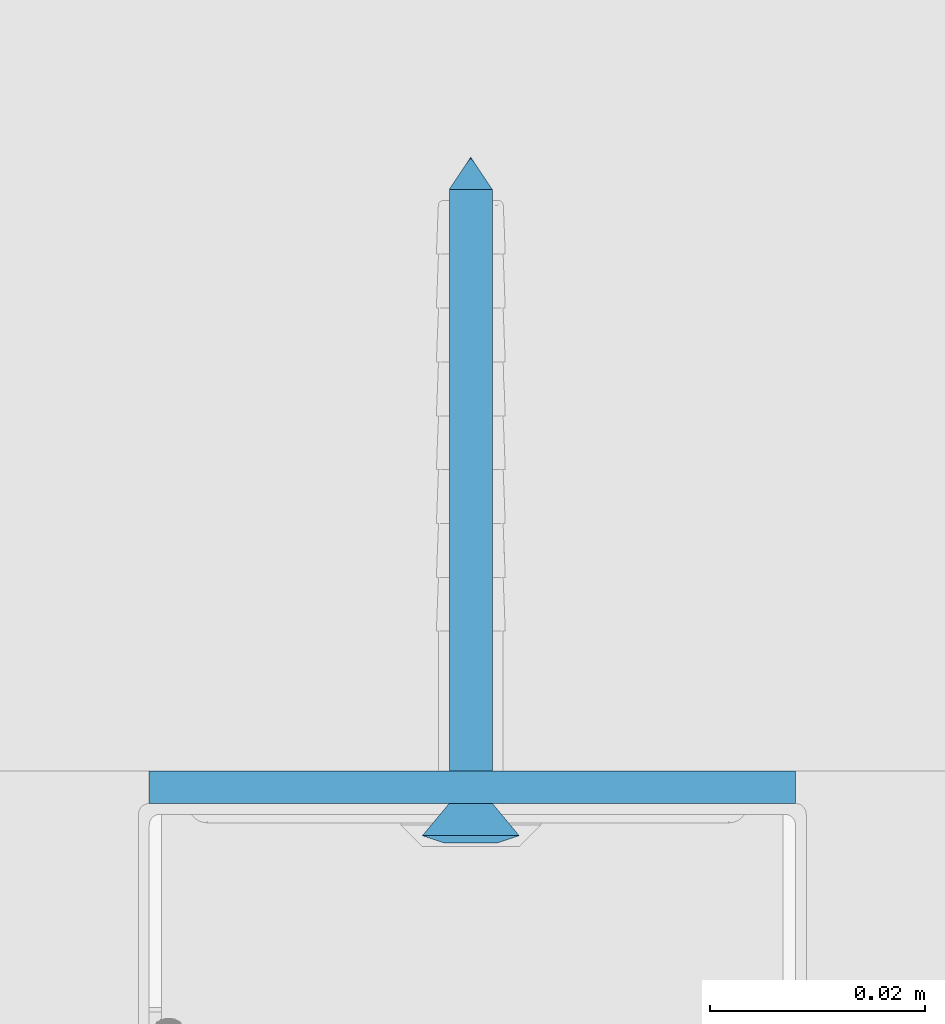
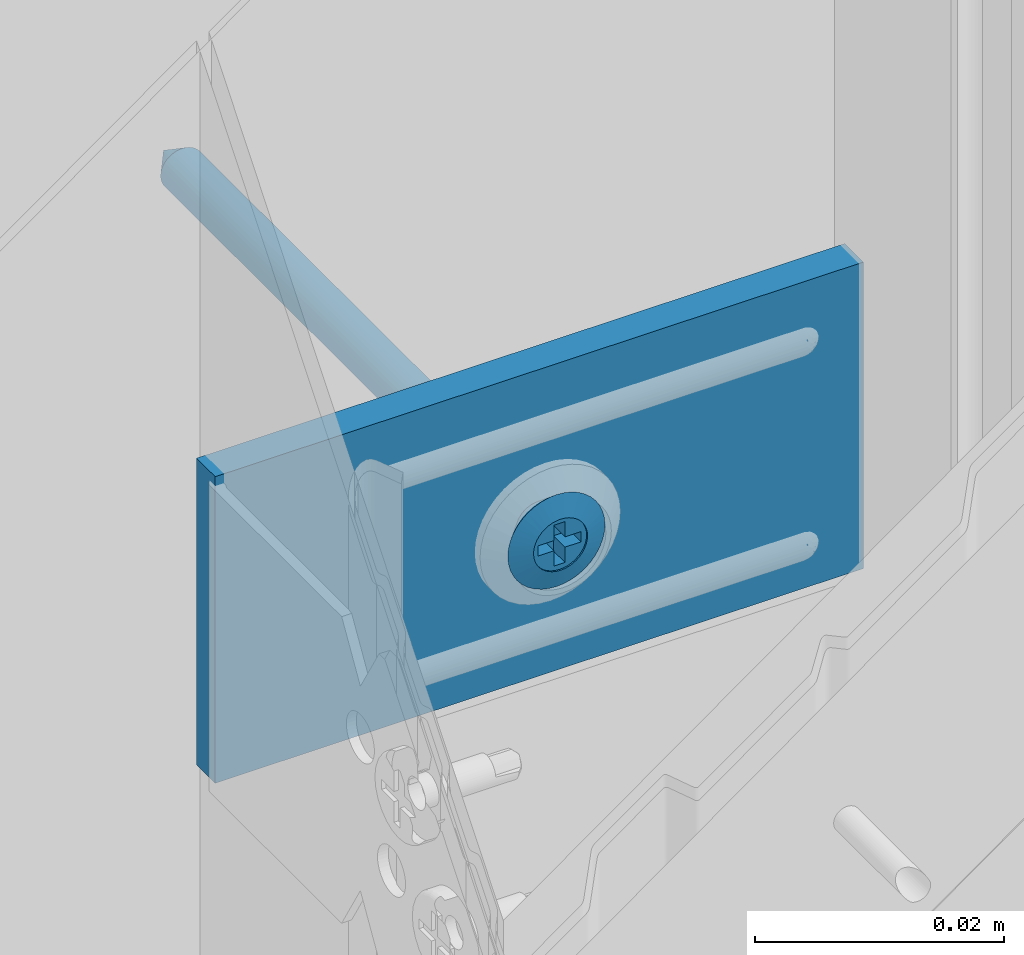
# One storey, part 51 of 62: 2 walls.
"""IFC2X3 building model written with IfcOpenShell, lengths in millimetres."""

from ifc_helpers import new_model, entity, si_unit, converted_unit, direction, frame, origin, origin_with_axes, place, context, project, spatial, faceted_brep, element, save


model = new_model("IFC2X3")

# Units and contexts
model_context = context("Model", 3, precision=1e-05, world=origin(), true_north=direction((0.0, 1.0, 0.0)))
ifc_project = project(units=[si_unit("LENGTHUNIT", "METRE", prefix="MILLI"), si_unit("AREAUNIT", "SQUARE_METRE"), si_unit("VOLUMEUNIT", "CUBIC_METRE"), converted_unit("PLANEANGLEUNIT", "DEGREE", entity("IfcPlaneAngleMeasure", 0.01745), si_unit("PLANEANGLEUNIT", "RADIAN"), dimensions=[0, 0, 0, 0, 0, 0, 0]), si_unit("SOLIDANGLEUNIT", "STERADIAN"), si_unit("MASSUNIT", "GRAM"), si_unit("TIMEUNIT", "SECOND"), si_unit("THERMODYNAMICTEMPERATUREUNIT", "DEGREE_CELSIUS"), si_unit("LUMINOUSINTENSITYUNIT", "LUMEN")], contexts=[model_context])

# Site, building, storey
site_placement = place(None, origin_with_axes())
site = spatial("IfcSite", under=ifc_project, at=site_placement, Name="Default Site", CompositionType="ELEMENT")
building_placement = place(site_placement, origin_with_axes())
building = spatial("IfcBuilding", under=site, at=building_placement, Name="Default Building", CompositionType="ELEMENT")
storey_placement = place(building_placement, origin_with_axes())
storey = spatial("IfcBuildingStorey", under=building, at=storey_placement, Name="Default Building Storey", CompositionType="ELEMENT", Elevation=0.0)

# Walls
wall_1_placement = place(storey_placement, frame((6356.176283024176, 2016.328611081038, -145.8634027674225), z_axis=(-6.858158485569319e-13, -1.0, -7.642380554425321e-14), x_axis=(-1.647602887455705e-11, 7.642380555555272e-14, -1.0)))
element("IfcWall", 1, at=wall_1_placement, inside=storey, Name="Kołek rozporowy min. fi 6", context=model_context, shape_type="Brep", body=[
    faceted_brep([(-1438.31414949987, -3453.283223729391, -0.4642567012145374), (-1435.814149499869, -3453.283223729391, -3.464256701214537), (-1435.78952618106, -3452.97035479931, -3.464256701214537), (-1438.258747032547, -3452.57926863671, -0.4642567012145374), (-1435.71626253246, -3452.665189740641, -3.464256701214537), (-1438.093903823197, -3451.892647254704, -0.4642567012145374), (-1435.596162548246, -3452.375242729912, -3.464256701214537), (-1437.823678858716, -3451.240266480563, -0.4642567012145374), (-1435.432183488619, -3452.107653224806, -3.464256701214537), (-1437.454725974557, -3450.638190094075, -0.4642567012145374), (-1435.228363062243, -3451.869010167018, -3.464256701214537), (-1436.996130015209, -3450.101243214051, -0.4642567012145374), (-1434.989720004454, -3451.665189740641, -3.464256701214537), (-1436.459183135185, -3449.642647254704, -0.4642567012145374), (-1434.722130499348, -3451.501210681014, -3.464256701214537), (-1435.857106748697, -3449.273694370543, -0.4642567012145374), (-1434.432183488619, -3451.381110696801, -3.464256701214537), (-1435.204725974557, -3449.003469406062, -0.4642567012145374), (-1434.12701842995, -3451.307847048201, -3.464256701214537), (-1434.51810459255, -3448.838626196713, -0.4642567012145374), (-1433.814149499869, -3451.283223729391, -3.464256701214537), (-1433.814149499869, -3448.783223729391, -0.4642567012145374), (-1433.501280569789, -3451.307847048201, -3.464256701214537), (-1433.110194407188, -3448.838626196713, -0.4642567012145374), (-1433.19611551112, -3451.381110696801, -3.464256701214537), (-1432.423573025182, -3449.003469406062, -0.4642567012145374), (-1432.906168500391, -3451.501210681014, -3.464256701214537), (-1431.771192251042, -3449.273694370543, -0.4642567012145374), (-1432.638578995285, -3451.665189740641, -3.464256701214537), (-1431.169115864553, -3449.642647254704, -0.4642567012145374), (-1432.399935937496, -3451.869010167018, -3.464256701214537), (-1430.63216898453, -3450.101243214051, -0.4642567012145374), (-1432.196115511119, -3452.107653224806, -3.464256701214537), (-1430.173573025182, -3450.638190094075, -0.4642567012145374), (-1432.032136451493, -3452.375242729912, -3.464256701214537), (-1429.804620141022, -3451.240266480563, -0.4642567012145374), (-1431.912036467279, -3452.665189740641, -3.464256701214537), (-1429.534395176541, -3451.892647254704, -0.4642567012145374), (-1431.838772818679, -3453.596092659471, -3.464256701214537), (-1429.369551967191, -3453.987178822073, -0.4642567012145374), (-1429.314149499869, -3453.283223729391, -0.4642567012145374), (-1431.81414949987, -3453.283223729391, -3.464256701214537), (-1429.369551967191, -3452.57926863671, -0.4642567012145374), (-1431.838772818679, -3452.97035479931, -3.464256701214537), (-1431.912036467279, -3453.901257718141, -3.464256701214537), (-1429.534395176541, -3454.673800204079, -0.4642567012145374), (-1432.032136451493, -3454.19120472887, -3.464256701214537), (-1429.804620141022, -3455.326180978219, -0.4642567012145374), (-1432.196115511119, -3454.458794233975, -3.464256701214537), (-1430.173573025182, -3455.928257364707, -0.4642567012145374), (-1432.399935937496, -3454.697437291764, -3.464256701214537), (-1430.63216898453, -3456.465204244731, -0.4642567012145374), (-1432.638578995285, -3454.901257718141, -3.464256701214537), (-1431.169115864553, -3456.923800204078, -0.4642567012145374), (-1432.906168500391, -3455.065236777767, -3.464256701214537), (-1431.771192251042, -3457.292753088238, -0.4642567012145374), (-1433.19611551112, -3455.185336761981, -3.464256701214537), (-1432.423573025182, -3457.562978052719, -0.4642567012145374), (-1433.501280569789, -3455.258600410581, -3.464256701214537), (-1433.110194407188, -3457.727821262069, -0.4642567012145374), (-1433.814149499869, -3455.283223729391, -3.464256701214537), (-1433.814149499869, -3457.783223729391, -0.4642567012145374), (-1434.34306778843, -3457.752031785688, -0.4642567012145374), (-1434.12701842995, -3455.258600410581, -3.464256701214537), (-1434.432183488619, -3455.185336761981, -3.464256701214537), (-1434.864653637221, -3457.658888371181, -0.4642567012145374), (-1435.371676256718, -3457.505084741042, -0.4642567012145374), (-1434.722130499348, -3455.065236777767, -3.464256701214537), (-1435.857106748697, -3457.292753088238, -0.4642567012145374), (-1434.989720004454, -3454.901257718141, -3.464256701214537), (-1435.228363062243, -3454.697437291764, -3.464256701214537), (-1436.314215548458, -3457.024836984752, -0.4642567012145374), (-1436.736665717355, -3456.705050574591, -0.4642567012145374), (-1437.11860079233, -3456.337827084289, -0.4642567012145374), (-1437.454725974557, -3455.928257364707, -0.4642567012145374), (-1435.432183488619, -3454.458794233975, -3.464256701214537), (-1435.596162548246, -3454.19120472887, -3.464256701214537), (-1437.823678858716, -3455.326180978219, -0.4642567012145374), (-1435.71626253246, -3453.901257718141, -3.464256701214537), (-1438.093903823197, -3454.673800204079, -0.4642567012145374), (-1435.78952618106, -3453.596092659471, -3.464256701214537), (-1438.258747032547, -3453.987178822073, -0.4642567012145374), (-1434.205235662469, -3455.752444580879, 0.2007375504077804), (-1433.814149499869, -3455.78322372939, 0.2007375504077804), (-1434.586691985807, -3455.660865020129, 0.2007375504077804), (-1434.949125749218, -3455.510740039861, 0.2007375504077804), (-1435.283612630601, -3455.305766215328, 0.2007375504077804), (-1435.581916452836, -3455.050990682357, 0.2007375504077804), (-1435.836691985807, -3454.752686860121, 0.2007375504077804), (-1436.04166581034, -3454.41819997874, 0.2007375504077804), (-1436.191790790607, -3454.055766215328, 0.2007375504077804), (-1436.283370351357, -3453.674309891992, 0.2007375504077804), (-1436.314149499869, -3453.283223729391, 0.2007375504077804), (-1436.283370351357, -3452.892137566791, 0.2007375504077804), (-1436.191790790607, -3452.510681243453, 0.2007375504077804), (-1436.04166581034, -3452.148247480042, 0.2007375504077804), (-1435.836691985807, -3451.81376059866, 0.200737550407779), (-1435.581916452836, -3451.515456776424, 0.2007375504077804), (-1435.283612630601, -3451.260681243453, 0.2007375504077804), (-1434.949125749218, -3451.05570741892, 0.2007375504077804), (-1434.586691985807, -3450.905582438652, 0.2007375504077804), (-1433.423063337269, -3450.814002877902, 0.2007375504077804), (-1433.814149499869, -3450.783223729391, 0.2007375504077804), (-1434.205235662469, -3450.814002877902, 0.2007375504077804), (-1433.041607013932, -3450.905582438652, 0.2007375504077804), (-1432.67917325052, -3451.05570741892, 0.2007375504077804), (-1432.344686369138, -3451.260681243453, 0.2007375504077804), (-1432.046382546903, -3451.515456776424, 0.2007375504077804), (-1431.791607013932, -3451.81376059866, 0.2007375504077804), (-1431.586633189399, -3452.148247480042, 0.2007375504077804), (-1431.436508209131, -3452.510681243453, 0.2007375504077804), (-1431.344928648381, -3452.892137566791, 0.2007375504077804), (-1431.314149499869, -3453.283223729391, 0.2007375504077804), (-1431.344928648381, -3453.674309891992, 0.2007375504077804), (-1431.436508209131, -3454.055766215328, 0.2007375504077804), (-1431.586633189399, -3454.41819997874, 0.2007375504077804), (-1431.791607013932, -3454.752686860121, 0.2007375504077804), (-1432.046382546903, -3455.050990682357, 0.2007375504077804), (-1432.344686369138, -3455.305766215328, 0.2007375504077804), (-1432.67917325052, -3455.510740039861, 0.2007375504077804), (-1433.041607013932, -3455.660865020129, 0.2007375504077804), (-1433.423063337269, -3455.752444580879, 0.2007375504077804), (-1433.814149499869, -3453.283223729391, -63.46425670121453), (-1435.789526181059, -3452.97035479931, -60.46425670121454), (-1435.814149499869, -3453.283223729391, -60.46425670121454), (-1435.716262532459, -3452.665189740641, -60.46425670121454), (-1435.596162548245, -3452.375242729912, -60.46425670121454), (-1435.432183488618, -3452.107653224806, -60.46425670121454), (-1435.228363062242, -3451.869010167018, -60.46425670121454), (-1434.989720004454, -3451.665189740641, -60.46425670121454), (-1434.722130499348, -3451.501210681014, -60.46425670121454), (-1434.432183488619, -3451.381110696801, -60.46425670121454), (-1434.127018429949, -3451.307847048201, -60.46425670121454), (-1433.814149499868, -3451.283223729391, -60.46425670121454), (-1433.501280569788, -3451.307847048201, -60.46425670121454), (-1433.196115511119, -3451.381110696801, -60.46425670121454), (-1432.90616850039, -3451.501210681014, -60.46425670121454), (-1432.638578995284, -3451.665189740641, -60.46425670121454), (-1432.399935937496, -3451.869010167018, -60.46425670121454), (-1432.196115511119, -3452.107653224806, -60.46425670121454), (-1432.032136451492, -3452.375242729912, -60.46425670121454), (-1431.912036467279, -3452.665189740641, -60.46425670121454), (-1431.838772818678, -3452.97035479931, -60.46425670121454), (-1431.814149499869, -3453.283223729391, -60.46425670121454), (-1431.838772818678, -3453.596092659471, -60.46425670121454), (-1431.912036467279, -3453.901257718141, -60.46425670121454), (-1432.032136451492, -3454.19120472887, -60.46425670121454), (-1432.196115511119, -3454.458794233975, -60.46425670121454), (-1432.399935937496, -3454.697437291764, -60.46425670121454), (-1432.638578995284, -3454.901257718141, -60.46425670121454), (-1432.90616850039, -3455.065236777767, -60.46425670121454), (-1433.196115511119, -3455.185336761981, -60.46425670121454), (-1433.501280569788, -3455.258600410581, -60.46425670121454), (-1433.814149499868, -3455.283223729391, -60.46425670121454), (-1434.127018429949, -3455.258600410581, -60.46425670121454), (-1434.432183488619, -3455.185336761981, -60.46425670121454), (-1434.722130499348, -3455.065236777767, -60.46425670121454), (-1434.989720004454, -3454.901257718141, -60.46425670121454), (-1435.228363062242, -3454.697437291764, -60.46425670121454), (-1435.432183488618, -3454.458794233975, -60.46425670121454), (-1435.596162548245, -3454.19120472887, -60.46425670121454), (-1435.716262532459, -3453.901257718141, -60.46425670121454), (-1435.789526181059, -3453.596092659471, -60.46425670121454), (-1435.814149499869, -3453.783223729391, 0.04999999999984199), (-1436.04166581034, -3454.41819997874, 0.04999999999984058), (-1436.191790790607, -3454.055766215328, 0.04999999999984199), (-1435.814149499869, -3452.783223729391, 0.04999999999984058), (-1434.314149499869, -3453.783223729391, 0.04999999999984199), (-1434.314149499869, -3455.28322372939, 0.04999999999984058), (-1433.314149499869, -3455.28322372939, 0.04999999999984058), (-1433.314149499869, -3453.783223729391, 0.04999999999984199), (-1431.814149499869, -3453.783223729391, 0.04999999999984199), (-1431.814149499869, -3452.783223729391, 0.04999999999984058), (-1433.314149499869, -3452.783223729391, 0.04999999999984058), (-1433.314149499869, -3451.283223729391, 0.04999999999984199), (-1434.314149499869, -3451.283223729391, 0.04999999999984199), (-1434.314149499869, -3452.783223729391, 0.04999999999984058), (-1436.283370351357, -3453.674309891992, 0.04999999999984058), (-1436.314149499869, -3453.283223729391, 0.04999999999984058), (-1436.283370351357, -3452.892137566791, 0.04999999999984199), (-1436.191790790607, -3452.510681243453, 0.04999999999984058), (-1436.04166581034, -3452.148247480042, 0.04999999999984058), (-1435.836691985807, -3451.81376059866, 0.04999999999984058), (-1435.581916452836, -3451.515456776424, 0.04999999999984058), (-1435.283612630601, -3451.260681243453, 0.04999999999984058), (-1434.949125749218, -3451.05570741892, 0.04999999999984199), (-1434.586691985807, -3450.905582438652, 0.04999999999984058), (-1434.205235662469, -3450.814002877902, 0.04999999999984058), (-1433.814149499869, -3450.783223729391, 0.04999999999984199), (-1433.423063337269, -3450.814002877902, 0.04999999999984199), (-1433.041607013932, -3450.905582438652, 0.04999999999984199), (-1432.67917325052, -3451.05570741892, 0.04999999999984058), (-1432.344686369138, -3451.260681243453, 0.04999999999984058), (-1432.046382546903, -3451.515456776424, 0.04999999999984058), (-1431.791607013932, -3451.81376059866, 0.04999999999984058), (-1431.586633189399, -3452.148247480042, 0.04999999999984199), (-1431.436508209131, -3452.510681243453, 0.04999999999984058), (-1431.344928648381, -3452.892137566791, 0.04999999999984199), (-1431.314149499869, -3453.283223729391, 0.04999999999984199), (-1431.344928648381, -3453.674309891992, 0.04999999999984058), (-1431.436508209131, -3454.055766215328, 0.04999999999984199), (-1431.586633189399, -3454.41819997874, 0.04999999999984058), (-1431.791607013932, -3454.752686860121, 0.04999999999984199), (-1432.046382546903, -3455.050990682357, 0.04999999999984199), (-1432.344686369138, -3455.305766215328, 0.04999999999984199), (-1432.67917325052, -3455.510740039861, 0.04999999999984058), (-1433.041607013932, -3455.660865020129, 0.04999999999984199), (-1433.423063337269, -3455.752444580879, 0.04999999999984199), (-1433.814149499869, -3455.78322372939, 0.04999999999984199), (-1434.205235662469, -3455.752444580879, 0.04999999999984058), (-1434.586691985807, -3455.660865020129, 0.04999999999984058), (-1434.949125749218, -3455.510740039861, 0.04999999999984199), (-1435.283612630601, -3455.305766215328, 0.04999999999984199), (-1435.581916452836, -3455.050990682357, 0.04999999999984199), (-1435.836691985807, -3454.752686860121, 0.04999999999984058), (-1434.314149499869, -3452.783223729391, -1.79926244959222), (-1434.314149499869, -3451.283223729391, -1.799262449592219), (-1433.314149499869, -3451.283223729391, -1.799262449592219), (-1433.314149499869, -3452.783223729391, -1.79926244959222), (-1431.81414949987, -3452.783223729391, -1.79926244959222), (-1431.81414949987, -3453.783223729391, -1.799262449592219), (-1433.314149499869, -3453.783223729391, -1.799262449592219), (-1433.314149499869, -3455.28322372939, -1.79926244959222), (-1434.314149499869, -3455.28322372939, -1.79926244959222), (-1434.314149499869, -3453.783223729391, -1.799262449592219), (-1435.814149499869, -3453.783223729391, -1.799262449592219), (-1435.814149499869, -3452.783223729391, -1.79926244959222)], [[[0, 1, 2, 3]], [[4, 5, 3, 2]], [[6, 7, 5, 4]], [[7, 6, 8, 9]], [[10, 11, 9, 8]], [[11, 10, 12, 13]], [[14, 15, 13, 12]], [[16, 17, 15, 14]], [[17, 16, 18, 19]], [[20, 21, 19, 18]], [[21, 20, 22, 23]], [[24, 25, 23, 22]], [[26, 27, 25, 24]], [[27, 26, 28, 29]], [[30, 31, 29, 28]], [[31, 30, 32, 33]], [[34, 35, 33, 32]], [[36, 37, 35, 34]], [[38, 39, 40, 41]], [[41, 40, 42, 43]], [[37, 36, 43, 42]], [[44, 45, 39, 38]], [[46, 47, 45, 44]], [[47, 46, 48, 49]], [[50, 51, 49, 48]], [[51, 50, 52, 53]], [[54, 55, 53, 52]], [[56, 57, 55, 54]], [[57, 56, 58, 59]], [[60, 61, 59, 58]], [[62, 61, 63]], [[61, 60, 63]], [[63, 64, 62]], [[64, 65, 62]], [[66, 65, 64]], [[64, 67, 66]], [[67, 68, 66]], [[69, 70, 71]], [[70, 72, 71]], [[71, 68, 69]], [[68, 67, 69]], [[70, 73, 72]], [[74, 73, 75]], [[73, 70, 75]], [[76, 77, 74, 75]], [[78, 79, 77, 76]], [[79, 78, 80, 81]], [[1, 0, 81, 80]], [[82, 83, 62]], [[83, 61, 62]], [[62, 65, 82]], [[65, 84, 82]], [[66, 68, 84]], [[68, 85, 84]], [[84, 65, 66]], [[86, 85, 71]], [[85, 68, 71]], [[72, 73, 87]], [[87, 86, 72]], [[86, 71, 72]], [[88, 87, 74]], [[87, 73, 74]], [[77, 89, 88, 74]], [[79, 90, 89, 77]], [[90, 79, 81, 91]], [[0, 92, 91, 81]], [[92, 0, 3, 93]], [[5, 94, 93, 3]], [[7, 95, 94, 5]], [[95, 7, 9, 96]], [[11, 97, 96, 9]], [[97, 11, 13, 98]], [[15, 99, 98, 13]], [[17, 100, 99, 15]], [[23, 101, 102, 21]], [[21, 102, 103, 19]], [[100, 17, 19, 103]], [[25, 104, 101, 23]], [[27, 105, 104, 25]], [[105, 27, 29, 106]], [[31, 107, 106, 29]], [[107, 31, 33, 108]], [[35, 109, 108, 33]], [[37, 110, 109, 35]], [[110, 37, 42, 111]], [[40, 112, 111, 42]], [[112, 40, 39, 113]], [[45, 114, 113, 39]], [[47, 115, 114, 45]], [[115, 47, 49, 116]], [[51, 117, 116, 49]], [[117, 51, 53, 118]], [[55, 119, 118, 53]], [[57, 120, 119, 55]], [[120, 57, 59, 121]], [[61, 83, 121, 59]], [[122, 123, 124]], [[122, 125, 123]], [[122, 126, 125]], [[127, 126, 122]], [[122, 128, 127]], [[129, 128, 122]], [[122, 130, 129]], [[122, 131, 130]], [[132, 131, 122]], [[122, 133, 132]], [[134, 133, 122]], [[122, 135, 134]], [[122, 136, 135]], [[137, 136, 122]], [[122, 138, 137]], [[139, 138, 122]], [[122, 140, 139]], [[122, 141, 140]], [[142, 141, 122]], [[122, 143, 142]], [[144, 143, 122]], [[122, 145, 144]], [[122, 146, 145]], [[147, 146, 122]], [[122, 148, 147]], [[149, 148, 122]], [[122, 150, 149]], [[122, 151, 150]], [[152, 151, 122]], [[122, 153, 152]], [[154, 153, 122]], [[122, 155, 154]], [[122, 156, 155]], [[157, 156, 122]], [[122, 158, 157]], [[159, 158, 122]], [[122, 160, 159]], [[122, 161, 160]], [[162, 161, 122]], [[124, 162, 122]], [[1, 124, 123, 2]], [[125, 4, 2, 123]], [[126, 6, 4, 125]], [[6, 126, 127, 8]], [[128, 10, 8, 127]], [[10, 128, 129, 12]], [[130, 14, 12, 129]], [[131, 16, 14, 130]], [[16, 131, 132, 18]], [[133, 20, 18, 132]], [[20, 133, 134, 22]], [[135, 24, 22, 134]], [[136, 26, 24, 135]], [[26, 136, 137, 28]], [[138, 30, 28, 137]], [[30, 138, 139, 32]], [[140, 34, 32, 139]], [[141, 36, 34, 140]], [[144, 38, 41, 143]], [[143, 41, 43, 142]], [[36, 141, 142, 43]], [[145, 44, 38, 144]], [[146, 46, 44, 145]], [[46, 146, 147, 48]], [[148, 50, 48, 147]], [[50, 148, 149, 52]], [[150, 54, 52, 149]], [[151, 56, 54, 150]], [[56, 151, 152, 58]], [[153, 60, 58, 152]], [[60, 153, 154, 63]], [[155, 64, 63, 154]], [[156, 67, 64, 155]], [[67, 156, 157, 69]], [[158, 70, 69, 157]], [[70, 158, 159, 75]], [[160, 76, 75, 159]], [[161, 78, 76, 160]], [[78, 161, 162, 80]], [[124, 1, 80, 162]], [[163, 164, 165, 166]], [[163, 167, 168, 169, 170, 171, 172, 173, 174, 175, 176, 166, 165, 177, 178, 179, 180, 181, 182, 183, 184, 185, 186, 187, 188, 189, 190, 191, 192, 193, 194, 195, 196, 197, 198, 199, 200, 201, 202, 203, 204, 205, 206, 207, 208, 209, 210, 211, 212, 213, 214, 164]], [[199, 198, 112, 113]], [[113, 114, 200, 199]], [[114, 115, 201, 200]], [[202, 201, 115, 116]], [[116, 117, 203, 202]], [[204, 203, 117, 118]], [[118, 119, 205, 204]], [[119, 120, 206, 205]], [[207, 206, 120, 121]], [[121, 83, 208, 207]], [[209, 208, 83, 82]], [[82, 84, 210, 209]], [[84, 85, 211, 210]], [[212, 211, 85, 86]], [[86, 87, 213, 212]], [[214, 213, 87, 88]], [[88, 89, 164, 214]], [[89, 90, 165, 164]], [[92, 93, 179, 178]], [[91, 92, 178, 177]], [[177, 165, 90, 91]], [[93, 94, 180, 179]], [[94, 95, 181, 180]], [[182, 181, 95, 96]], [[96, 97, 183, 182]], [[184, 183, 97, 98]], [[98, 99, 185, 184]], [[99, 100, 186, 185]], [[187, 186, 100, 103]], [[103, 102, 188, 187]], [[189, 188, 102, 101]], [[101, 104, 190, 189]], [[104, 105, 191, 190]], [[192, 191, 105, 106]], [[106, 107, 193, 192]], [[194, 193, 107, 108]], [[108, 109, 195, 194]], [[109, 110, 196, 195]], [[197, 196, 110, 111]], [[111, 112, 198, 197]], [[215, 216, 217, 218, 219, 220, 221, 222, 223, 224, 225, 226]], [[216, 175, 174, 217]], [[215, 176, 175, 216]], [[226, 166, 176, 215]], [[225, 163, 166, 226]], [[224, 167, 163, 225]], [[223, 168, 167, 224]], [[222, 169, 168, 223]], [[221, 170, 169, 222]], [[220, 171, 170, 221]], [[219, 172, 171, 220]], [[218, 173, 172, 219]], [[217, 174, 173, 218]]]),
])
wall_2_placement = place(storey_placement, frame((2873.037086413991, 2019.778611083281, 1272.848239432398), z_axis=(0.0, 0.0, -1.0), x_axis=(1.0, 0.0, 0.0)))
element("IfcWall", 2, at=wall_2_placement, inside=storey, Name="Taśma uszczelniająca piankowa RIGIPS szer.30mm", context=model_context, shape_type="Brep", body=[
    faceted_brep([(59.99999999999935, 0.0, 4.511946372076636e-12), (0.0, 0.0, 0.0), (1.082867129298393e-12, 2.237925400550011e-11, -30.00000000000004), (60.00000000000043, 2.237925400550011e-11, -29.99999999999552), (0.0, -3.00000000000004, 0.0), (1.082867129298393e-12, -2.999999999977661, -30.00000000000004), (60.00000000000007, -3.00000000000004, 0.0), (60.00000000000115, -2.999999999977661, -30.00000000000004)], [[[0, 1, 2, 3]], [[1, 4, 5, 2]], [[4, 6, 7, 5]], [[6, 0, 3, 7]], [[7, 3, 2, 5]], [[0, 6, 4, 1]]]),
])

save(model, "model.ifc")
